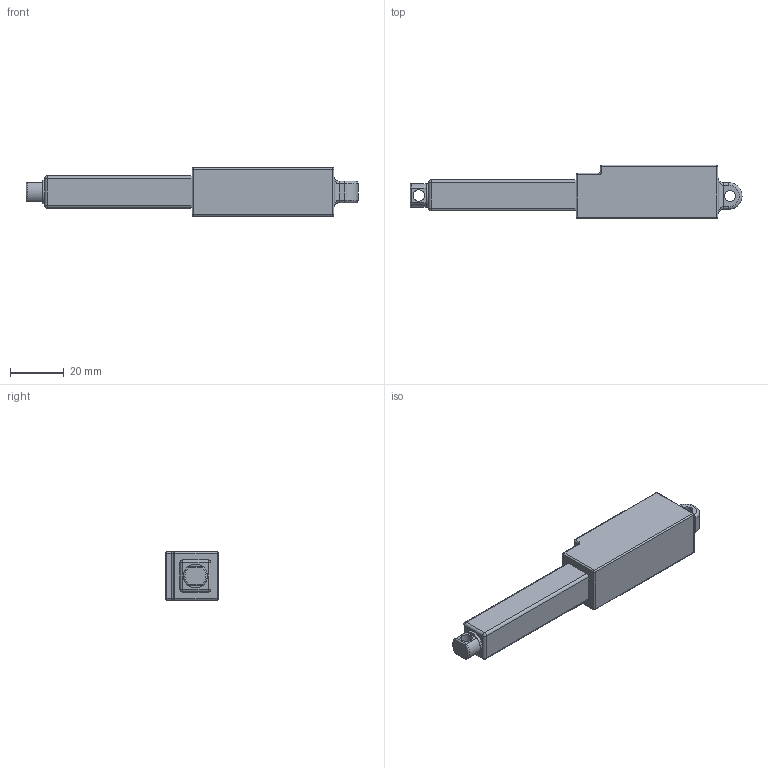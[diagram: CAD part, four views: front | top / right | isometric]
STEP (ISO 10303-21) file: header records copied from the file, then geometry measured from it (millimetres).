
FILE_DESCRIPTION(/* description */ ('Alibre Inc.'),/* implementation_level */ '2;1');
FILE_NAME(/* name */ 'export0',/* time_stamp */ '2013-08-15T14:35:10-06:00',/* author */ (''),/* organization */ (''),/* preprocessor_version */ 'ST-DEVELOPER v14',/* originating_system */ 'Alibre',/* authorisation */ '');
FILE_SCHEMA (('ALIBRE_SCHEMA','CONFIG_CONTROL_DESIGN'));
Length unit declared in the file: centimetre
Products named in the file (1): ID_1
Bounding box: 124 x 20 x 18 mm (x, y, z)
Volume: 26986.6 mm3; surface area: 7634.3 mm2
Topology: 1 solids, 1 shells, 87 faces, 195 edges, 96 vertices
Faces by surface type: cylinder 42, plane 21, sphere 14, torus 6, bspline 4
Full cylindrical faces by diameter (mm): 4.25 x2, 8.9 x1
Entity records: 5859 total; most frequent: CARTESIAN_POINT 1206, DIRECTION 583, CONSTRAINTPAIRUV 411, ORIENTED_EDGE 348, REFERENCEDEPENDENTUV 273, VECTOR 264, PERSISTANTTOPOLOGYATTRIBUTE 258, REFERENCEPOINTUV 208
